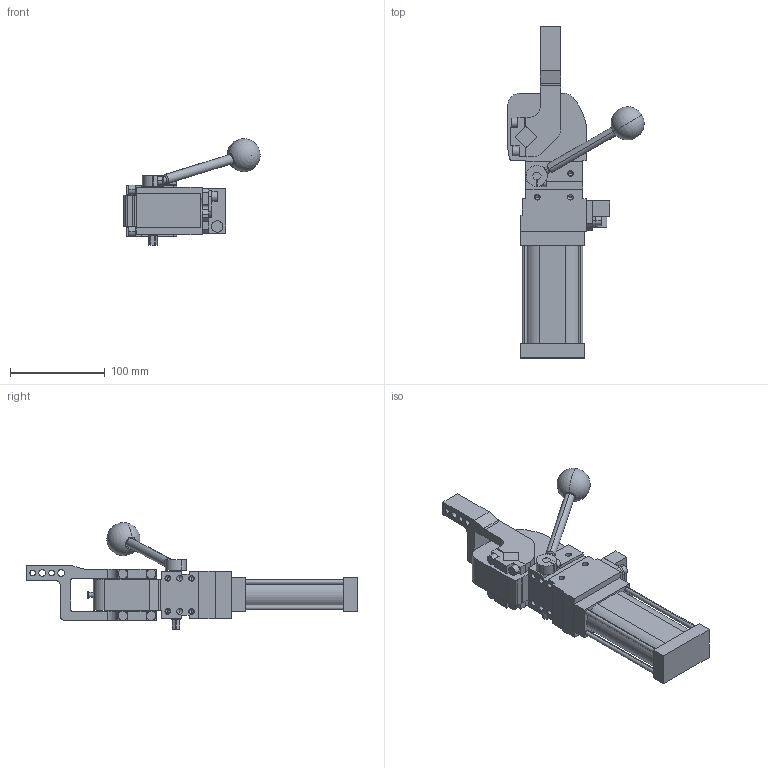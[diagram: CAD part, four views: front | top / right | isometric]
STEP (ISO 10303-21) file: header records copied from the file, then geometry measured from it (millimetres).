
FILE_DESCRIPTION (( 'STEP AP214' ), '1' );
FILE_NAME ('cplm40lah1ssi1g_45.STEP', '2021-05-25T11:58:20', ( '' ), ( '' ), 'SwSTEP 2.0', 'SolidWorks 2021', '' );
FILE_SCHEMA (( 'AUTOMOTIVE_DESIGN' ));
Length unit declared in the file: millimetre
Products named in the file (6): piastra_blocchetto_cpl40; blocchetto_VEP_0_cpl40; comando_manuale_cplm_40; meccanica_cplm40; leva_v1s_cpl40; cplm40lah1ssi1g_45
Assembly tree (5 placements, depth 2):
  cplm40lah1ssi1g_45
    meccanica_cplm40
    blocchetto_VEP_0_cpl40
    piastra_blocchetto_cpl40
    leva_v1s_cpl40
    comando_manuale_cplm_40
Bounding box: 143.69 x 350 x 112.66 mm (x, y, z)
Volume: 808327.5 mm3; surface area: 126749 mm2
Topology: 6 solids, 6 shells, 467 faces, 1201 edges, 757 vertices
Faces by surface type: plane 259, cylinder 160, cone 46, sphere 2
Entity records: 15517 total; most frequent: CARTESIAN_POINT 2501, DIRECTION 2476, ORIENTED_EDGE 2308, EDGE_CURVE 1154, AXIS2_PLACEMENT_3D 851, LINE 774, VECTOR 774, VERTEX_POINT 754
